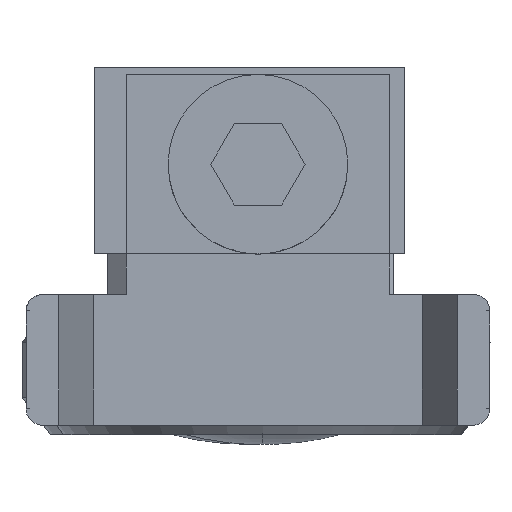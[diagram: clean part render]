
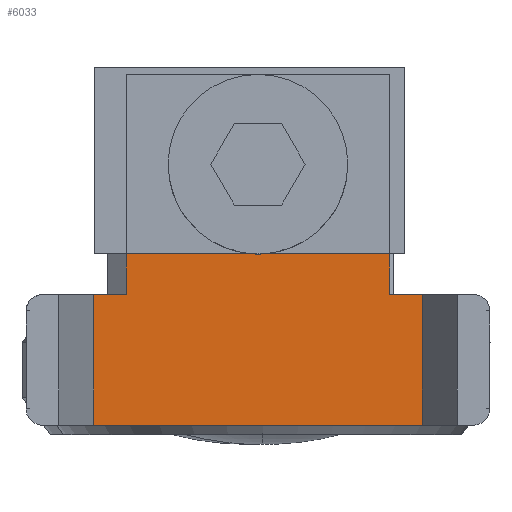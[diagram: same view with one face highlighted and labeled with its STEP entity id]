
A CAD part, left-side view. The second image highlights one B-rep face of the part: STEP entity #6033.
In plain terms, the highlighted planar face has unit normal (-1, 0, 0).
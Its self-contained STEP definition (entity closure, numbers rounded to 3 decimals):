
#208 = ORIENTED_EDGE ( 'NONE', *, *, #4545, .F. ) ;
#229 = LINE ( 'NONE', #862, #5455 ) ;
#367 = VERTEX_POINT ( 'NONE', #4439 ) ;
#375 = CARTESIAN_POINT ( 'NONE',  ( 4., 0., -4.04 ) ) ;
#379 = LINE ( 'NONE', #5132, #4890 ) ;
#388 = CARTESIAN_POINT ( 'NONE',  ( 4., -4., -5.028 ) ) ;
#431 = ORIENTED_EDGE ( 'NONE', *, *, #2305, .T. ) ;
#492 = VERTEX_POINT ( 'NONE', #3596 ) ;
#499 = VERTEX_POINT ( 'NONE', #4541 ) ;
#697 = CARTESIAN_POINT ( 'NONE',  ( 4., 1.25, -5.028 ) ) ;
#744 = ORIENTED_EDGE ( 'NONE', *, *, #1856, .T. ) ;
#757 = CARTESIAN_POINT ( 'NONE',  ( 4., -4., -5.028 ) ) ;
#760 = VECTOR ( 'NONE', #4958, 1000. ) ;
#862 = CARTESIAN_POINT ( 'NONE',  ( 4., -4., -5.028 ) ) ;
#873 = VERTEX_POINT ( 'NONE', #388 ) ;
#1006 = CARTESIAN_POINT ( 'NONE',  ( 4., -4., 5.028 ) ) ;
#1081 = EDGE_CURVE ( 'NONE', #6339, #2409, #6226, .T. ) ;
#1119 = VERTEX_POINT ( 'NONE', #4968 ) ;
#1149 = VECTOR ( 'NONE', #2978, 1000. ) ;
#1193 = EDGE_CURVE ( 'NONE', #1328, #1334, #4535, .T. ) ;
#1211 = DIRECTION ( 'NONE',  ( 0., 0., -1. ) ) ;
#1247 = DIRECTION ( 'NONE',  ( -1., 0., 0. ) ) ;
#1297 = CARTESIAN_POINT ( 'NONE',  ( 4., 1.25, 0.234 ) ) ;
#1298 = VECTOR ( 'NONE', #3581, 1000. ) ;
#1328 = VERTEX_POINT ( 'NONE', #1809 ) ;
#1334 = VERTEX_POINT ( 'NONE', #1297 ) ;
#1424 = LINE ( 'NONE', #2144, #1592 ) ;
#1437 = EDGE_CURVE ( 'NONE', #367, #873, #229, .T. ) ;
#1592 = VECTOR ( 'NONE', #5174, 1000. ) ;
#1618 = CARTESIAN_POINT ( 'NONE',  ( 4., 0., -4.04 ) ) ;
#1670 = DIRECTION ( 'NONE',  ( 0., 0., -1. ) ) ;
#1748 = DIRECTION ( 'NONE',  ( 0., 0., 1. ) ) ;
#1809 = CARTESIAN_POINT ( 'NONE',  ( 4., 1.25, 4.04 ) ) ;
#1856 = EDGE_CURVE ( 'NONE', #1119, #6339, #379, .T. ) ;
#2057 = VECTOR ( 'NONE', #3969, 1000. ) ;
#2144 = CARTESIAN_POINT ( 'NONE',  ( 4., -4., 0. ) ) ;
#2303 = CARTESIAN_POINT ( 'NONE',  ( 4., 3.99, 0. ) ) ;
#2305 = EDGE_CURVE ( 'NONE', #873, #492, #1424, .T. ) ;
#2384 = AXIS2_PLACEMENT_3D ( 'NONE', #757, #1247, #1748 ) ;
#2409 = VERTEX_POINT ( 'NONE', #375 ) ;
#2451 = VECTOR ( 'NONE', #1211, 1000. ) ;
#2493 = CARTESIAN_POINT ( 'NONE',  ( 4., 0., 0. ) ) ;
#2585 = CARTESIAN_POINT ( 'NONE',  ( 4., 0., 4.04 ) ) ;
#2978 = DIRECTION ( 'NONE',  ( 0., -1., 0. ) ) ;
#3014 = VERTEX_POINT ( 'NONE', #4192 ) ;
#3084 = LINE ( 'NONE', #2493, #4687 ) ;
#3205 = ORIENTED_EDGE ( 'NONE', *, *, #1193, .T. ) ;
#3258 = DIRECTION ( 'NONE',  ( -1., 0., 0. ) ) ;
#3361 = CARTESIAN_POINT ( 'NONE',  ( 4., 1.25, -4.04 ) ) ;
#3462 = LINE ( 'NONE', #1006, #1149 ) ;
#3567 = ORIENTED_EDGE ( 'NONE', *, *, #3852, .F. ) ;
#3581 = DIRECTION ( 'NONE',  ( 0., -1., 0. ) ) ;
#3596 = CARTESIAN_POINT ( 'NONE',  ( 4., -4., 5.028 ) ) ;
#3852 = EDGE_CURVE ( 'NONE', #3014, #492, #3462, .T. ) ;
#3969 = DIRECTION ( 'NONE',  ( 0., 0., -1. ) ) ;
#4085 = LINE ( 'NONE', #2585, #760 ) ;
#4192 = CARTESIAN_POINT ( 'NONE',  ( 4., 0., 5.028 ) ) ;
#4203 = ORIENTED_EDGE ( 'NONE', *, *, #1081, .T. ) ;
#4439 = CARTESIAN_POINT ( 'NONE',  ( 4., 0., -5.028 ) ) ;
#4519 = FACE_OUTER_BOUND ( 'NONE', #5177, .T. ) ;
#4535 = LINE ( 'NONE', #697, #2451 ) ;
#4541 = CARTESIAN_POINT ( 'NONE',  ( 4., 0., 4.04 ) ) ;
#4545 = EDGE_CURVE ( 'NONE', #367, #2409, #3084, .T. ) ;
#4583 = EDGE_CURVE ( 'NONE', #1328, #499, #4085, .T. ) ;
#4660 = ORIENTED_EDGE ( 'NONE', *, *, #1437, .T. ) ;
#4687 = VECTOR ( 'NONE', #6022, 1000. ) ;
#4789 = DIRECTION ( 'NONE',  ( 0., -1., 0. ) ) ;
#4890 = VECTOR ( 'NONE', #1670, 1000. ) ;
#4958 = DIRECTION ( 'NONE',  ( 0., -1., 0. ) ) ;
#4968 = CARTESIAN_POINT ( 'NONE',  ( 4., 1.25, -0.234 ) ) ;
#5029 = AXIS2_PLACEMENT_3D ( 'NONE', #2303, #3258, #5705 ) ;
#5094 = ORIENTED_EDGE ( 'NONE', *, *, #5693, .T. ) ;
#5132 = CARTESIAN_POINT ( 'NONE',  ( 4., 1.25, -5.028 ) ) ;
#5174 = DIRECTION ( 'NONE',  ( 0., 0., 1. ) ) ;
#5177 = EDGE_LOOP ( 'NONE', ( #5094, #5882, #3205, #5357, #744, #4203, #208, #4660, #431, #3567 ) ) ;
#5357 = ORIENTED_EDGE ( 'NONE', *, *, #6152, .F. ) ;
#5455 = VECTOR ( 'NONE', #4789, 1000. ) ;
#5661 = PLANE ( 'NONE',  #2384 ) ;
#5693 = EDGE_CURVE ( 'NONE', #3014, #499, #5907, .T. ) ;
#5705 = DIRECTION ( 'NONE',  ( 0., 0., 1. ) ) ;
#5882 = ORIENTED_EDGE ( 'NONE', *, *, #4583, .F. ) ;
#5907 = LINE ( 'NONE', #5926, #2057 ) ;
#5926 = CARTESIAN_POINT ( 'NONE',  ( 4., 0., -5.028 ) ) ;
#6022 = DIRECTION ( 'NONE',  ( 0., 0., 1. ) ) ;
#6033 = ADVANCED_FACE ( 'NONE', ( #4519 ), #5661, .T. ) ;
#6152 = EDGE_CURVE ( 'NONE', #1119, #1334, #6212, .T. ) ;
#6212 = CIRCLE ( 'NONE', #5029, 2.75 ) ;
#6226 = LINE ( 'NONE', #1618, #1298 ) ;
#6339 = VERTEX_POINT ( 'NONE', #3361 ) ;
